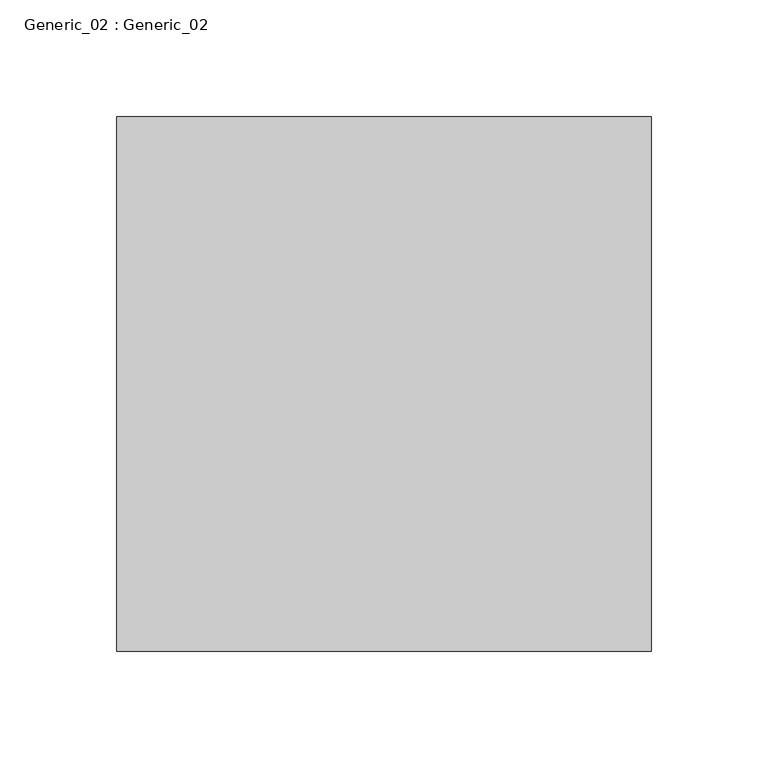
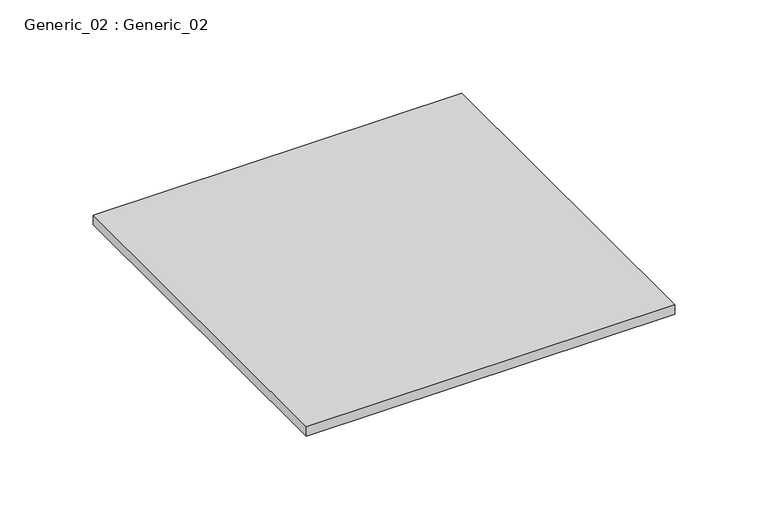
"""IFC4 building model written with IfcOpenShell, lengths in millimetres: proxy geometry, Generic_02 : Generic_02."""

from ifc_helpers import new_model, si_unit, frame, origin, place, context, project, spatial, polyline, outline, extrude, source, transform, mapped, element, save


def generic_02_generic_02_913d4e3a(model_context):
    return source(origin(), model_context, "Body", "SweptSolid", [
        extrude(outline(polyline([(228.6, -228.6), (0.0, -228.6), (0.0, 0.0), (228.6, 0.0), (228.6, -228.6)])), frame((0.0, 0.0, -6.35), z_axis=(0.0, 0.0, 1.0), x_axis=(1.0, 0.0, 0.0)), (0.0, 0.0, 1.0), 6.35),
    ])


if __name__ == "__main__":
    model = new_model("IFC4")
    model_context = context("Model", 3, world=origin())
    ifc_project = project(units=[si_unit("LENGTHUNIT", "METRE", prefix="MILLI")], contexts=[model_context])
    site = spatial("IfcSite", under=ifc_project)
    building = spatial("IfcBuilding", under=site)
    placement = place(None, origin())
    generic_02_generic_02_shape = generic_02_generic_02_913d4e3a(model_context)
    element("IfcBuildingElementProxy", 1, Name="Generic_02 : Generic_02", ObjectType="Generic_02 : Generic_02", at=placement, inside=building, context=model_context, shape_type="MappedRepresentation", body=[
        mapped(generic_02_generic_02_shape, transform((0.0, 0.0, 0.0), x_axis=(1.0, 0.0, 0.0), y_axis=(0.0, 1.0, 0.0), z_axis=(0.0, 0.0, 1.0))),
    ])
    save(model, "model.ifc")
